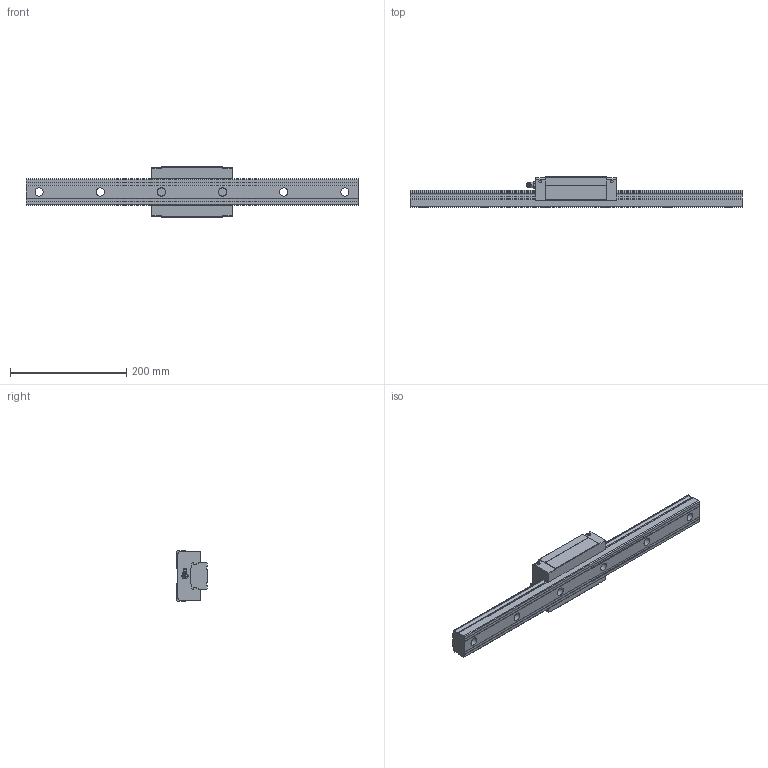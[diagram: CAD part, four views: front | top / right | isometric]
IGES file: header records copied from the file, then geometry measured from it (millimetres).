
Start section: Data from Parasolid IGES Translator 26.0.171, Copyright(c) 2006 Siemens PLM Software. All Rights Reserved.
Global section: file name: SVR45R1SS-570L_G22-5_0_B-PT18_215-9_0_0_0_1.igs; native system: By Siemens PLM Incorporated; preprocessor: XPlus GENERIC/IGES 26.0.171; author: Noname; organization: Noname; date: 20240517.070627; units: millimetre
Bounding box: 570 x 52 x 86 mm (x, y, z)
Surface area: 144575.9 mm2 (no closed solid volume)
Topology: 0 solids, 0 shells, 188 faces, 989 edges, 931 vertices
Faces by surface type: extrusion 99, revolution 89
